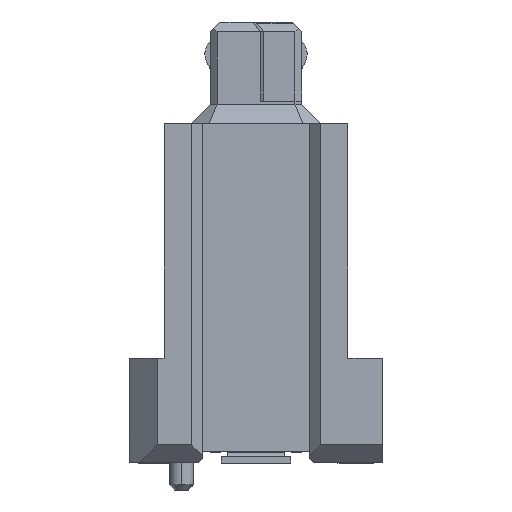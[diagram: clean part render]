
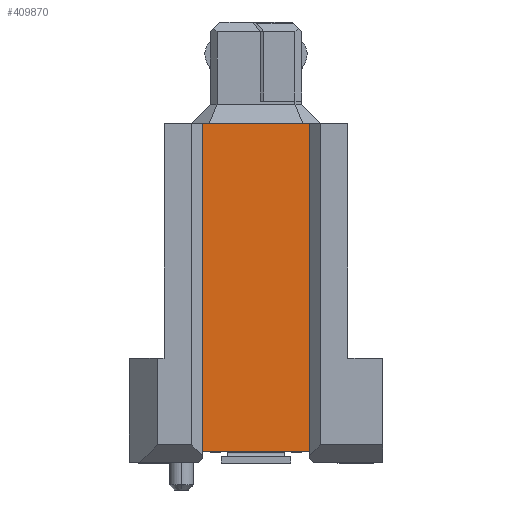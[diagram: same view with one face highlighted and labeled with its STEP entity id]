
A CAD part, left-side view. The second image highlights one B-rep face of the part: STEP entity #409870.
In plain terms, the highlighted planar face has unit normal (-1, 0, 0).
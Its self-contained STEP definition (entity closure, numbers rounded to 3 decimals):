
#153070=CARTESIAN_POINT('',(-5.032,4.41,4.2));
#153080=VERTEX_POINT('',#153070);
#153110=CARTESIAN_POINT('',(-5.032,4.41,0.));
#153120=DIRECTION('',(0.,0.,-1.));
#153130=VECTOR('',#153120,1.);
#153140=LINE('',#153110,#153130);
#153150=CARTESIAN_POINT('',(-5.032,4.41,1.1));
#153160=VERTEX_POINT('',#153150);
#153170=EDGE_CURVE('',#153080,#153160,#153140,.T.);
#187580=CARTESIAN_POINT('',(-5.032,-5.06,4.2));
#187590=VERTEX_POINT('',#187580);
#187620=CARTESIAN_POINT('',(-5.032,2.,4.2));
#187630=DIRECTION('',(0.,-1.,0.));
#187640=VECTOR('',#187630,1.);
#187650=LINE('',#187620,#187640);
#187660=EDGE_CURVE('',#153080,#187590,#187650,.T.);
#395720=CARTESIAN_POINT('',(-5.032,-5.06,1.1));
#395730=VERTEX_POINT('',#395720);
#395760=CARTESIAN_POINT('',(-5.032,-5.06,0.));
#395770=DIRECTION('',(0.,0.,-1.));
#395780=VECTOR('',#395770,1.);
#395790=LINE('',#395760,#395780);
#395800=EDGE_CURVE('',#187590,#395730,#395790,.T.);
#409710=CARTESIAN_POINT('',(-5.032,-2.36,5.3));
#409720=DIRECTION('',(-1.,0.,0.));
#409730=DIRECTION('',(0.,1.,0.));
#409740=AXIS2_PLACEMENT_3D('',#409710,#409720,#409730);
#409750=PLANE('',#409740);
#409760=ORIENTED_EDGE('',*,*,#153170,.T.);
#409770=ORIENTED_EDGE('',*,*,#187660,.F.);
#409780=ORIENTED_EDGE('',*,*,#395800,.F.);
#409790=CARTESIAN_POINT('',(-5.032,-0.36,1.1));
#409800=DIRECTION('',(0.,1.,0.));
#409810=VECTOR('',#409800,1.);
#409820=LINE('',#409790,#409810);
#409830=EDGE_CURVE('',#395730,#153160,#409820,.T.);
#409840=ORIENTED_EDGE('',*,*,#409830,.F.);
#409850=EDGE_LOOP('',(#409840,#409780,#409770,#409760));
#409860=FACE_OUTER_BOUND('',#409850,.T.);
#409870=ADVANCED_FACE('',(#409860),#409750,.T.);
